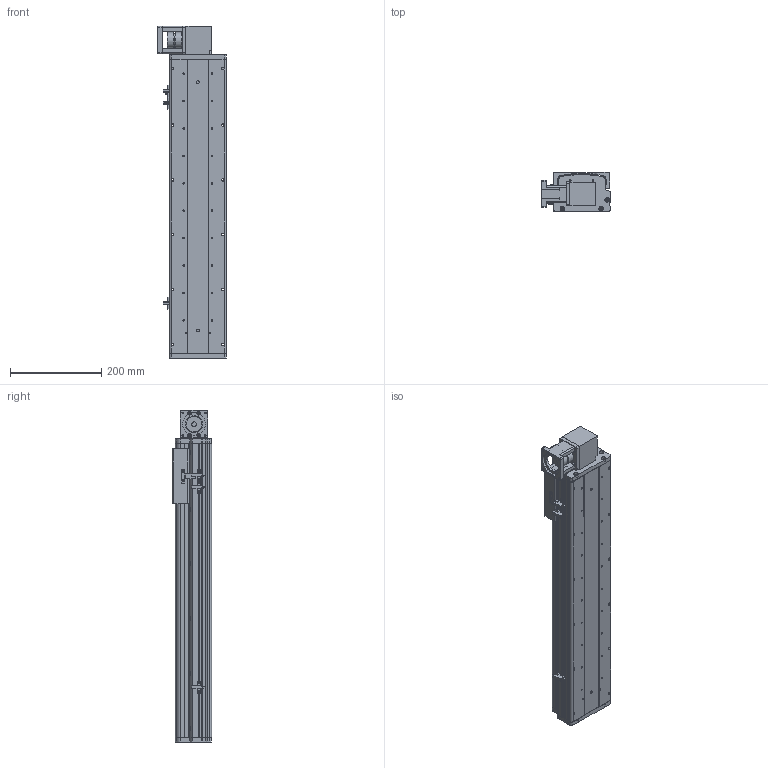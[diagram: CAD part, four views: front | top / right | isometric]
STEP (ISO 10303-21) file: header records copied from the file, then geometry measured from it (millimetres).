
FILE_DESCRIPTION (( 'STEP AP214' ), '1' );
FILE_NAME ('KSD125B-S450-MRT-CM.STEP', '2017-08-07T07:22:04', ( '微软用户' ), ( '微软中国' ), 'SwSTEP 2.0', 'SolidWorks 2014', '' );
FILE_SCHEMA (( 'AUTOMOTIVE_DESIGN' ));
Length unit declared in the file: millimetre
Products named in the file (15): 100宽马达安装板同步带右; 前端板-125宽模组同步带; 125模组同步带-尾端板1; KSD125模组同步带-滑动座1; KSD125B-S450-MRT-CM; KSD125模组450行程同步带-防尘盖; 125模组450行程同步带-底板; KSD125模组同步带-防撞垫2; CS-34X32-10X14; 100遵鎮湛假蚾啣1 ; 覜茼え68遵圉猾敕; U倰嫖萇假蚾璃; U倰嫖萇EEㄜSX672; KSD125模组同步带-防撞垫1; 100宽安装板同步带带电机座400W,86
Assembly tree (18 placements, depth 2):
  KSD125B-S450-MRT-CM
    KSD125模组同步带-滑动座1
    125模组同步带-尾端板1
    前端板-125宽模组同步带
    100宽马达安装板同步带右
    100宽安装板同步带带电机座400W,86
    KSD125模组同步带-防撞垫1
    U倰嫖萇EEㄜSX672  x3
    U倰嫖萇假蚾璃  x3
    覜茼え68遵圉猾敕
    100遵鎮湛假蚾啣1 
    CS-34X32-10X14
    KSD125模组同步带-防撞垫2
    125模组450行程同步带-底板
    KSD125模组450行程同步带-防尘盖
Bounding box: 150.5 x 86 x 727 mm (x, y, z)
Volume: 2441132.5 mm3; surface area: 785808.9 mm2
Topology: 18 solids, 18 shells, 1280 faces, 3634 edges, 2377 vertices
Faces by surface type: cylinder 707, plane 523, cone 50
Entity records: 40821 total; most frequent: CARTESIAN_POINT 8934, DIRECTION 6251, ORIENTED_EDGE 5960, EDGE_CURVE 2980, AXIS2_PLACEMENT_3D 2356, VERTEX_POINT 1969, LINE 1539, VECTOR 1539
